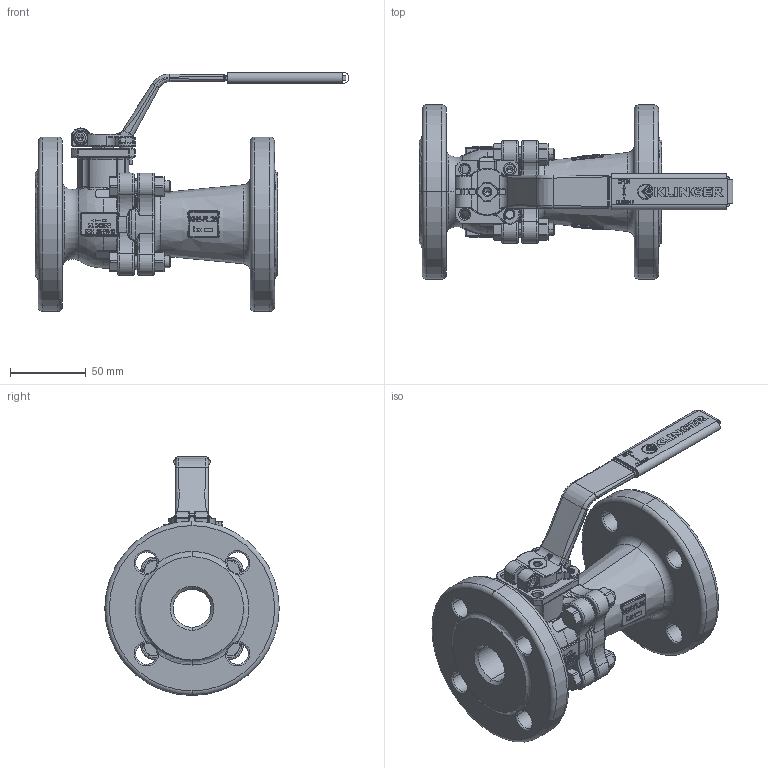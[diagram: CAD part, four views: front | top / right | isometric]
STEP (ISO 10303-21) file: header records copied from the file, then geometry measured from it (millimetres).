
FILE_DESCRIPTION((''),'2;1');
FILE_NAME('KHEFK025VFL025P040PKK','2015-08-10T',('mahrhauserh'),('RAND'),'PRO/ENGINEER BY PARAMETRIC TECHNOLOGY CORPORATION, 2013410','PRO/ENGINEER BY PARAMETRIC TECHNOLOGY CORPORATION, 2013410','');
FILE_SCHEMA(('CONFIG_CONTROL_DESIGN'));
Products named in the file (1): KHEFK025VFL025P040PKK
Bounding box: 206.95 x 115 x 157.55 mm (x, y, z)
Volume: 577794.2 mm3; surface area: 140146 mm2
Topology: 1 solids, 1 shells, 3212 faces, 8309 edges, 5200 vertices
Faces by surface type: plane 1804, cylinder 488, bspline 340, torus 330, cone 208, sphere 42
Entity records: 132087 total; most frequent: CARTESIAN_POINT 55373, ORIENTED_EDGE 16590, DIRECTION 15176, EDGE_CURVE 8295, VECTOR 5260, LINE 5260, VERTEX_POINT 5200, AXIS2_PLACEMENT_3D 4958
